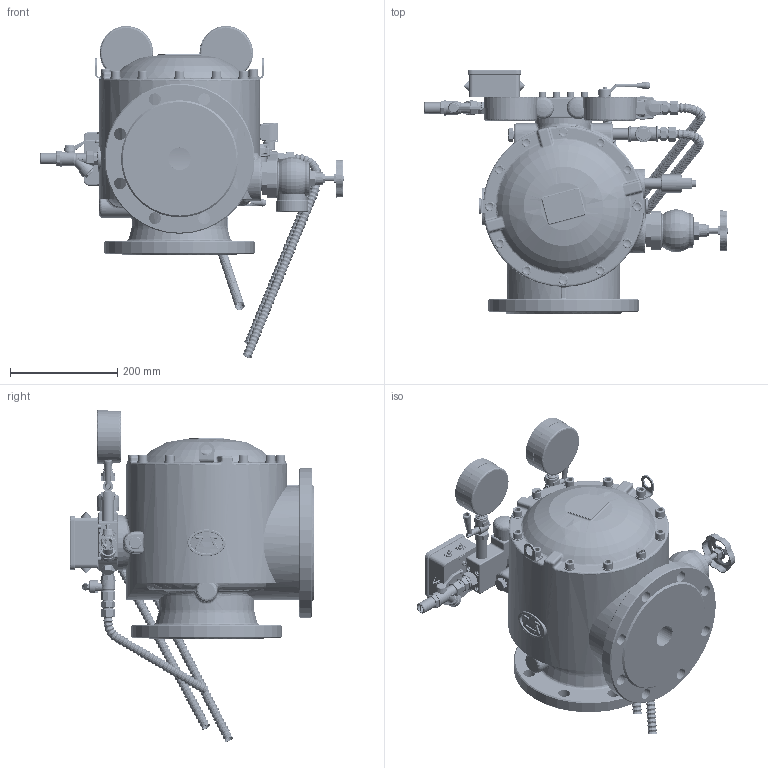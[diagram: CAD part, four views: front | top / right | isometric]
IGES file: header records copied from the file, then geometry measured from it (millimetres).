
Start section: File generated by T-FLEX CAD Version (null)
Global section: file name: 150.igs; native system: T-FLEX CAD; date: 211014.110804; units: millimetre
Bounding box: 566.75 x 454.3 x 619.04 mm (x, y, z)
Volume: 23786145.8 mm3; surface area: 1711943.9 mm2
Topology: 381 solids, 407 shells, 14178 faces, 34882 edges, 20987 vertices
Faces by surface type: plane 5113, cylinder 4296, revolution 1668, bspline 1449, cone 872, sphere 780
Full cylindrical faces by diameter (mm): 49 x1
